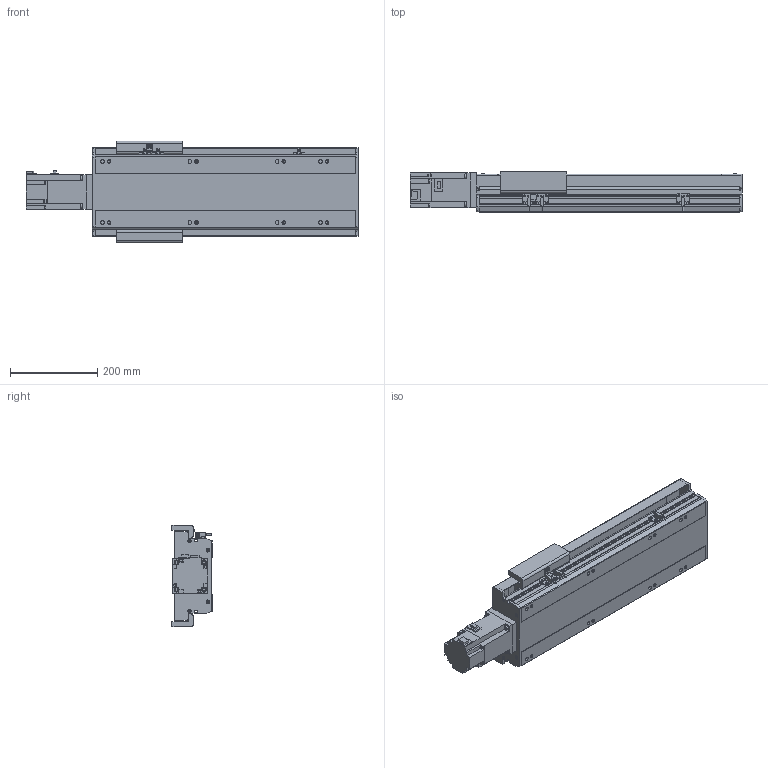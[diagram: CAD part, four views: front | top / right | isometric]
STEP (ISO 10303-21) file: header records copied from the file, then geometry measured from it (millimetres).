
FILE_DESCRIPTION(/* description */ ('STEP AP214'),/* implementation_level */ '2;1');
FILE_NAME(/* name */ 'PSM170-L10-S350-BC-T75-C1-N(0)',/* time_stamp */ '2022-06-13T03:24:01+02:00',/* author */ ('License CC BY-ND 4.0'),/* organization */ ('CADENAS'),/* preprocessor_version */ 'ST-DEVELOPER v18.102',/* originating_system */ 'PARTsolutions',/* authorisation */ ' ');
FILE_SCHEMA (('AUTOMOTIVE_DESIGN {1 0 10303 214 3 1 1}'));
Length unit declared in the file: millimetre
Products named in the file (8): PSM170-L10-S350-BC-T75-C1-N(0); PSM-Sensor; PSM140-S350-592.5; T75-p1; PSM170_body2; PSM170_body3; PSM170-S350_body1; PSM170-L10-S350-BC-T75-C1-N(0)_dummy
Assembly tree (11 placements, depth 2):
  PSM170-L10-S350-BC-T75-C1-N(0)
    PSM-Sensor  x3
    PSM140-S350-592.5  x3
    T75-p1
    PSM170_body2
    PSM170_body3
    PSM170-S350_body1
    PSM170-L10-S350-BC-T75-C1-N(0)_dummy
Bounding box: 761.3 x 92 x 233 mm (x, y, z)
Volume: 4831252.8 mm3; surface area: 911783.1 mm2
Topology: 10 solids, 10 shells, 1003 faces, 2670 edges, 1739 vertices
Faces by surface type: plane 644, cylinder 289, cone 56, torus 14
Full cylindrical faces by diameter (mm): 2.8 x3, 3.08 x1, 4.134 x4, 4.5 x12, 4.6 x3, 5.7 x2, 6 x9, 6.647 x16, 7 x8, 7.6 x4, 8 x8, 8.5 x8, 10 x4, 14 x8, 45 x1, 70 x1
Entity records: 26167 total; most frequent: CARTESIAN_POINT 4726, DIRECTION 4396, ORIENTED_EDGE 4204, EDGE_CURVE 2102, AXIS2_PLACEMENT_3D 1473, VERTEX_POINT 1466, LINE 1450, VECTOR 1450
